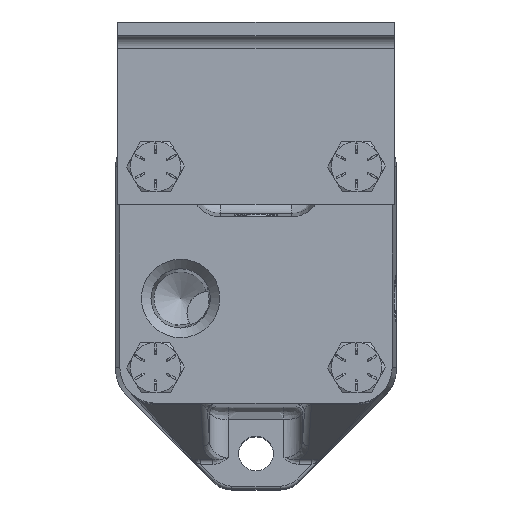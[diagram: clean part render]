
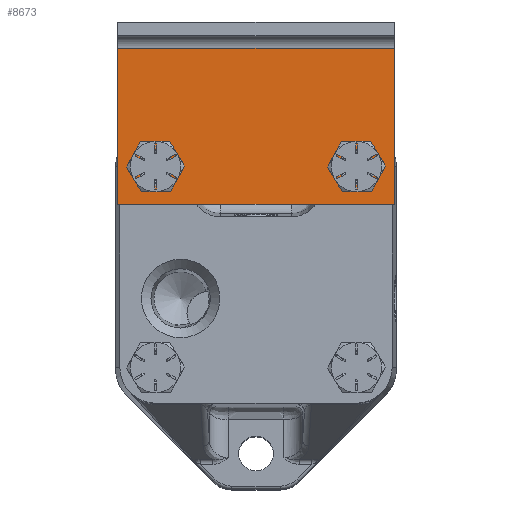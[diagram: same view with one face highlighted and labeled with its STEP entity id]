
A CAD part, top view. The second image highlights one B-rep face of the part: STEP entity #8673.
In plain terms, the highlighted planar face has unit normal (0, 0, 1).
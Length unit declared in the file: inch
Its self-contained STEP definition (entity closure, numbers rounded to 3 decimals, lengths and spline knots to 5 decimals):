
#1087=LINE($,#18515,#1666);
#1089=LINE($,#18523,#1668);
#1090=LINE($,#18525,#1669);
#1091=LINE($,#18526,#1670);
#1666=VECTOR($,#11400,2.75);
#1668=VECTOR($,#11408,1.553);
#1669=VECTOR($,#11409,2.75);
#1670=VECTOR($,#11410,1.553);
#2667=FACE_BOUND($,#3123,.T.);
#2668=FACE_BOUND($,#3124,.T.);
#2669=FACE_BOUND($,#3125,.T.);
#3123=EDGE_LOOP($,(#7429));
#3124=EDGE_LOOP($,(#7430));
#3125=EDGE_LOOP($,(#7431,#7432,#7433,#7434));
#3622=CIRCLE($,#9475,0.172);
#3623=CIRCLE($,#9476,0.172);
#4344=VERTEX_POINT($,#18512);
#4345=VERTEX_POINT($,#18514);
#4346=VERTEX_POINT($,#18518);
#4347=VERTEX_POINT($,#18520);
#4348=VERTEX_POINT($,#18522);
#4349=VERTEX_POINT($,#18524);
#5541=EDGE_CURVE($,#4345,#4344,#1087,.T.);
#5543=EDGE_CURVE($,#4346,#4346,#3622,.T.);
#5544=EDGE_CURVE($,#4347,#4347,#3623,.T.);
#5545=EDGE_CURVE($,#4344,#4348,#1089,.T.);
#5546=EDGE_CURVE($,#4349,#4348,#1090,.T.);
#5547=EDGE_CURVE($,#4345,#4349,#1091,.T.);
#7429=ORIENTED_EDGE($,*,*,#5543,.T.);
#7430=ORIENTED_EDGE($,*,*,#5544,.T.);
#7431=ORIENTED_EDGE($,*,*,#5545,.T.);
#7432=ORIENTED_EDGE($,*,*,#5546,.F.);
#7433=ORIENTED_EDGE($,*,*,#5547,.F.);
#7434=ORIENTED_EDGE($,*,*,#5541,.T.);
#8270=PLANE($,#9474);
#8673=ADVANCED_FACE($,(#2667,#2668,#2669),#8270,.T.);
#9474=AXIS2_PLACEMENT_3D($,#18517,#11402,#11403);
#9475=AXIS2_PLACEMENT_3D($,#18519,#11404,#11405);
#9476=AXIS2_PLACEMENT_3D($,#18521,#11406,#11407);
#11400=DIRECTION($,(1.,0.,0.));
#11402=DIRECTION('center_axis',(0.,0.,
1.));
#11403=DIRECTION('ref_axis',(-1.,0.,0.));
#11404=DIRECTION('center_axis',(0.,0.,
-1.));
#11405=DIRECTION('ref_axis',(-1.,0.,0.));
#11406=DIRECTION('center_axis',(0.,0.,
-1.));
#11407=DIRECTION('ref_axis',(-1.,0.,0.));
#11408=DIRECTION($,(0.,1.,0.));
#11409=DIRECTION($,(1.,0.,0.));
#11410=DIRECTION($,(0.,1.,0.));
#18512=CARTESIAN_POINT('',(1.375,0.6245,1.5566));
#18514=CARTESIAN_POINT('',(-1.375,0.6245,1.5566));
#18515=CARTESIAN_POINT($,(-1.375,0.6245,1.5566));
#18517=CARTESIAN_POINT('Origin',(-1.375,0.6245,1.5566));
#18518=CARTESIAN_POINT('',(0.828,1.,1.5566));
#18519=CARTESIAN_POINT('Origin',(1.,1.,1.5566));
#18520=CARTESIAN_POINT('',(-1.172,1.,1.5566));
#18521=CARTESIAN_POINT('Origin',(-1.,1.,1.5566));
#18522=CARTESIAN_POINT('',(1.375,2.1775,1.5566));
#18523=CARTESIAN_POINT($,(1.375,0.6245,1.5566));
#18524=CARTESIAN_POINT('',(-1.375,2.1775,1.5566));
#18525=CARTESIAN_POINT($,(-1.375,2.1775,1.5566));
#18526=CARTESIAN_POINT($,(-1.375,0.6245,1.5566));
